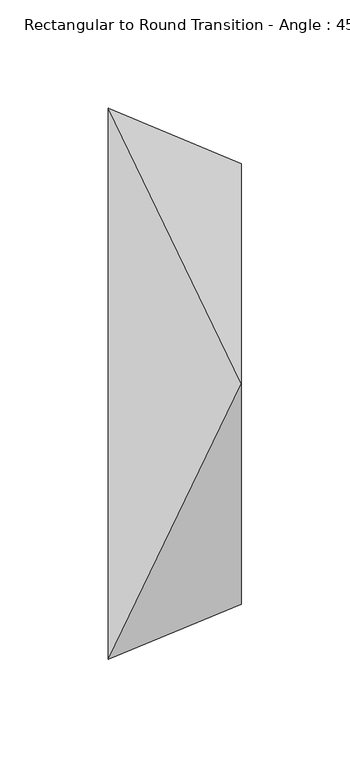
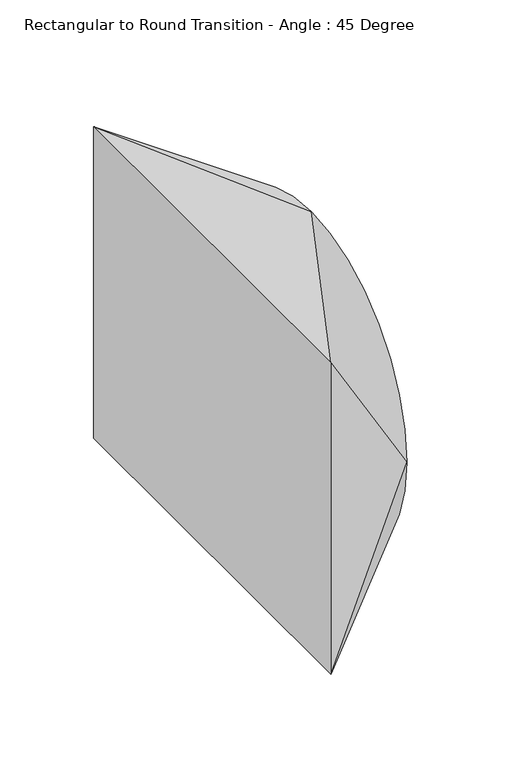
"""IFC4 building model written with IfcOpenShell, lengths in millimetres: duct fitting geometry, Rectangular to Round Transition - Angle : 45 Degree."""

from ifc_helpers import new_model, si_unit, frame, origin, place, context, project, spatial, circle_curve, source, transform, mapped, element, save
from ifc_brep_helpers import plane_surface, spline_surface, advanced_brep


def rectangular_to_round_transition_angle_45_degree_a46ebf92(model_context):
    return source(origin(), model_context, "Body", "AdvancedBrep", [
        advanced_brep(
        [(61.3210245, 0.0, 101.6), (61.3210245, -101.6, 0.0), (61.3210245, 0.0, -101.6), (61.3210245, 101.6, 0.0), (0.0, 127.0, 101.6), (0.0, 127.0, -101.6), (0.0, -127.0, -101.6), (0.0, -127.0, 101.6)],
        [
            (0, 1, circle_curve(frame((61.3210245, 0.0, 0.0), z_axis=(1.0, 0.0, 0.0), x_axis=(0.0, -1.0, 0.0)), 101.6)),
            (1, 2, circle_curve(frame((61.3210245, 0.0, 0.0), z_axis=(1.0, 0.0, 0.0), x_axis=(0.0, -1.0, 0.0)), 101.6)),
            (2, 3, circle_curve(frame((61.3210245, 0.0, 0.0), z_axis=(1.0, 0.0, 0.0), x_axis=(0.0, -1.0, 0.0)), 101.6)),
            (3, 0, circle_curve(frame((61.3210245, 0.0, 0.0), z_axis=(1.0, 0.0, 0.0), x_axis=(0.0, -1.0, 0.0)), 101.6)),
            (4, 5),
            (5, 6),
            (6, 7),
            (7, 4),
            (3, 4),
            (4, 0),
            (3, 5),
            (2, 5),
            (2, 6),
            (1, 6),
            (1, 7),
            (0, 7),
        ],
        [
            plane_surface(frame((61.3210245, 0.0, 0.0), z_axis=(1.0, 0.0, 0.0), x_axis=(0.0, 0.0, -1.0))),
            plane_surface(frame((0.0, 0.0, 0.0), z_axis=(-1.0, 0.0, 0.0), x_axis=(0.0, 0.0, -1.0))),
            spline_surface(1, 2, [[(0.0, 127.0, 101.6), (0.0, 127.0, 101.6), (0.0, 127.0, 101.6)], [(61.3210245, 0.0, 101.6), (61.3210245, 101.6, 101.6), (61.3210245, 101.6, 0.0)]], [2, 2], [3, 3], [0.0, 1.0], [0.0, 1.0], weights=[[1.0, 0.7071067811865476, 1.0], [1.0, 0.7071067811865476, 1.0]]),
            plane_surface(frame((0.0, 127.0, 0.0), z_axis=(0.3826834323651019, 0.9238795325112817, 0.0), x_axis=(0.0, 0.0, -1.0))),
            spline_surface(1, 2, [[(0.0, 127.0, -101.6), (0.0, 127.0, -101.6), (0.0, 127.0, -101.6)], [(61.3210245, 101.6, 0.0), (61.3210245, 101.6, -101.6), (61.3210245, 0.0, -101.6)]], [2, 2], [3, 3], [0.0, 1.0], [0.0, 1.0], weights=[[1.0, 0.7071067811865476, 1.0], [1.0, 0.7071067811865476, 1.0]]),
            plane_surface(frame((0.0, 0.0, -101.6), z_axis=(0.0, 0.0, -1.0), x_axis=(0.0, -1.0, 0.0))),
            spline_surface(1, 2, [[(0.0, -127.0, -101.6), (0.0, -127.0, -101.6), (0.0, -127.0, -101.6)], [(61.3210245, 0.0, -101.6), (61.3210245, -101.6, -101.6), (61.3210245, -101.6, 0.0)]], [2, 2], [3, 3], [0.0, 1.0], [0.0, 1.0], weights=[[1.0, 0.7071067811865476, 1.0], [1.0, 0.7071067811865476, 1.0]]),
            plane_surface(frame((0.0, -127.0, 0.0), z_axis=(0.382683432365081, -0.9238795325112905, 0.0), x_axis=(0.0, 0.0, 1.0))),
            spline_surface(1, 2, [[(0.0, -127.0, 101.6), (0.0, -127.0, 101.6), (0.0, -127.0, 101.6)], [(61.3210245, -101.6, 0.0), (61.3210245, -101.6, 101.6), (61.3210245, 0.0, 101.6)]], [2, 2], [3, 3], [0.0, 1.0], [0.0, 1.0], weights=[[1.0, 0.7071067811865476, 1.0], [1.0, 0.7071067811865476, 1.0]]),
            plane_surface(frame((0.0, 0.0, 101.6), z_axis=(0.0, 0.0, 1.0), x_axis=(0.0, 1.0, 0.0))),
        ],
        [
            (0, [[1, 2, 3, 4]]),
            (1, [[5, 6, 7, 8]]),
            (2, [[9, 10, -4]]),
            (3, [[-9, 11, -5]]),
            (4, [[12, -11, -3]]),
            (5, [[-12, 13, -6]]),
            (6, [[14, -13, -2]]),
            (7, [[-14, 15, -7]]),
            (8, [[16, -15, -1]]),
            (9, [[-16, -10, -8]]),
        ],
    ),
    ])


if __name__ == "__main__":
    model = new_model("IFC4")
    model_context = context("Model", 3, world=origin())
    ifc_project = project(units=[si_unit("LENGTHUNIT", "METRE", prefix="MILLI")], contexts=[model_context])
    site = spatial("IfcSite", under=ifc_project)
    building = spatial("IfcBuilding", under=site)
    placement = place(None, origin())
    rectangular_to_round_transition_angle_45_degree_shape = rectangular_to_round_transition_angle_45_degree_a46ebf92(model_context)
    element("IfcDuctFitting", 1, ObjectType="Rectangular to Round Transition - Angle : 45 Degree", at=placement, inside=building, context=model_context, shape_type="MappedRepresentation", body=[
        mapped(rectangular_to_round_transition_angle_45_degree_shape, transform((0.0, 0.0, 0.0), x_axis=(1.0, 0.0, 0.0), y_axis=(0.0, 1.0, 0.0), z_axis=(0.0, 0.0, 1.0))),
    ])
    save(model, "model.ifc")
